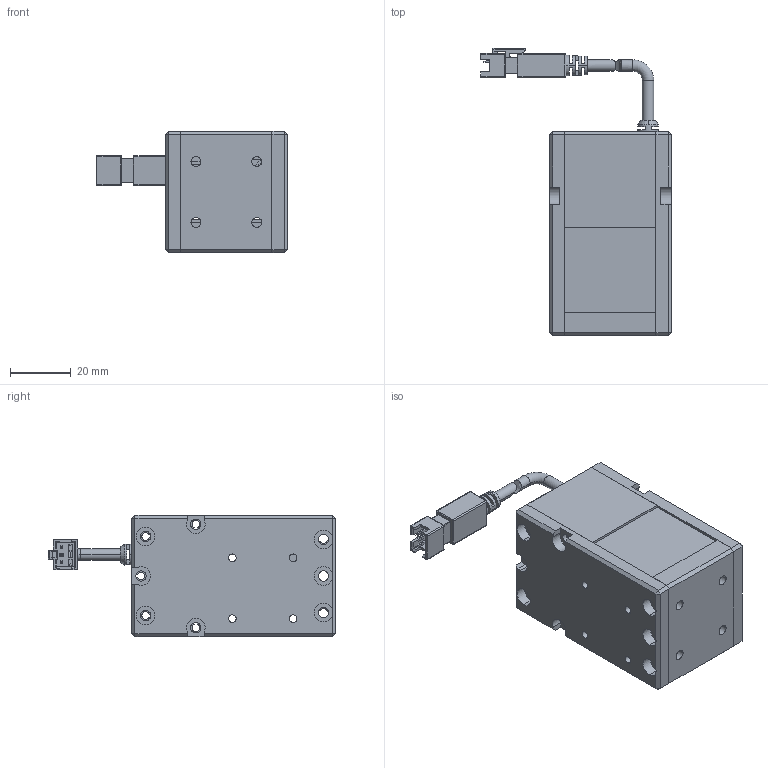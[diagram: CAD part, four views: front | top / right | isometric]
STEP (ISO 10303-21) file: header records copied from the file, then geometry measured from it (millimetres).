
FILE_DESCRIPTION (( 'STEP AP203' ), '1' );
FILE_NAME ('PPX-CO40N-W.STEP', '2025-06-17T03:56:28', ( '' ), ( '' ), 'SwSTEP 2.0', 'SolidWorks 2021', '' );
FILE_SCHEMA (( 'CONFIG_CONTROL_DESIGN' ));
Length unit declared in the file: millimetre
Products named in the file (1): PPX-CO40N-W
Bounding box: 62.6 x 94.5 x 40 mm (x, y, z)
Surface area: 22682.7 mm2 (no closed solid volume)
Topology: 0 solids, 9 shells, 411 faces, 1396 edges, 979 vertices
Faces by surface type: plane 249, cylinder 135, torus 13, cone 8, sphere 4, bspline 2
Entity records: 15580 total; most frequent: CARTESIAN_POINT 3212, DIRECTION 2610, ORIENTED_EDGE 2374, EDGE_CURVE 1392, VERTEX_POINT 979, LINE 924, VECTOR 924, AXIS2_PLACEMENT_3D 843
